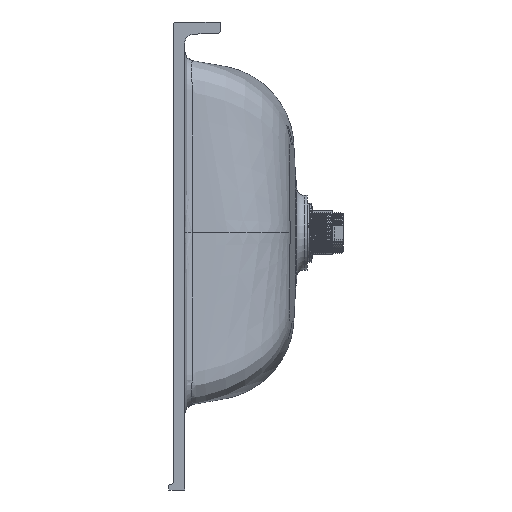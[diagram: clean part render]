
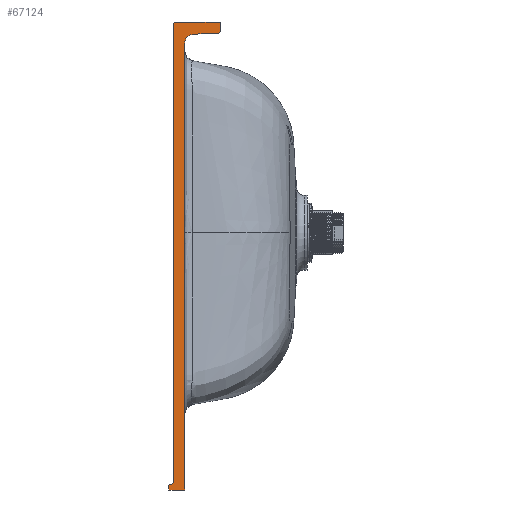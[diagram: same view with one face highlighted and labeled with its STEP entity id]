
A CAD part, left-side view. The second image highlights one B-rep face of the part: STEP entity #67124.
In plain terms, the highlighted planar face has unit normal (-1, 0, 0).
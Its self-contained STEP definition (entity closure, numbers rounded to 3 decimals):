
#1259 = LINE ( 'NONE', #41869, #61608 ) ;
#1967 = AXIS2_PLACEMENT_3D ( 'NONE', #84545, #38885, #53938 ) ;
#2598 = LINE ( 'NONE', #63823, #9620 ) ;
#3371 = CARTESIAN_POINT ( 'NONE',  ( -1250., -50., 225. ) ) ;
#4836 = FACE_OUTER_BOUND ( 'NONE', #76217, .T. ) ;
#6701 = LINE ( 'NONE', #37314, #86168 ) ;
#6891 = CARTESIAN_POINT ( 'NONE',  ( -1250., 0., -266. ) ) ;
#7274 = CARTESIAN_POINT ( 'NONE',  ( -1250., -47., 215.897 ) ) ;
#8614 = VECTOR ( 'NONE', #59129, 1000. ) ;
#8928 = VERTEX_POINT ( 'NONE', #60502 ) ;
#9620 = VECTOR ( 'NONE', #77892, 1000. ) ;
#10703 = EDGE_CURVE ( 'NONE', #84625, #27958, #98277, .T. ) ;
#13089 = EDGE_CURVE ( 'NONE', #48948, #78009, #1259, .T. ) ;
#13348 = DIRECTION ( 'NONE',  ( -1., 0., 0. ) ) ;
#13712 = AXIS2_PLACEMENT_3D ( 'NONE', #71444, #63426, #33301 ) ;
#13822 = DIRECTION ( 'NONE',  ( -1., 0., 0. ) ) ;
#13997 = CARTESIAN_POINT ( 'NONE',  ( -1250., -22., 202.016 ) ) ;
#14470 = CARTESIAN_POINT ( 'NONE',  ( -1250., -12., -275. ) ) ;
#14974 = DIRECTION ( 'NONE',  ( 0., 0., 1. ) ) ;
#16395 = EDGE_CURVE ( 'NONE', #92098, #27958, #6701, .T. ) ;
#16565 = ORIENTED_EDGE ( 'NONE', *, *, #16395, .T. ) ;
#19963 = CARTESIAN_POINT ( 'NONE',  ( -1250., 3., -271. ) ) ;
#27575 = AXIS2_PLACEMENT_3D ( 'NONE', #19963, #50580, #41046 ) ;
#27958 = VERTEX_POINT ( 'NONE', #28022 ) ;
#28022 = CARTESIAN_POINT ( 'NONE',  ( -1250., 5., -275. ) ) ;
#28156 = EDGE_CURVE ( 'NONE', #86049, #63735, #60108, .T. ) ;
#29884 = LINE ( 'NONE', #75063, #56359 ) ;
#30028 = DIRECTION ( 'NONE',  ( 0., 0., 1. ) ) ;
#31246 = CARTESIAN_POINT ( 'NONE',  ( -1250., -12., 202.016 ) ) ;
#32225 = CARTESIAN_POINT ( 'NONE',  ( -1250., -50., 215.897 ) ) ;
#33301 = DIRECTION ( 'NONE',  ( 0., 0., 1. ) ) ;
#33343 = DIRECTION ( 'NONE',  ( 0., 0., 1. ) ) ;
#35031 = VERTEX_POINT ( 'NONE', #65274 ) ;
#35452 = CARTESIAN_POINT ( 'NONE',  ( -1250., -12., 225. ) ) ;
#36428 = PLANE ( 'NONE',  #67687 ) ;
#37314 = CARTESIAN_POINT ( 'NONE',  ( -1250., 5., -275. ) ) ;
#38885 = DIRECTION ( 'NONE',  ( -1., 0., 0. ) ) ;
#39473 = CARTESIAN_POINT ( 'NONE',  ( -1250., -21.651, 212.01 ) ) ;
#40243 = ORIENTED_EDGE ( 'NONE', *, *, #28156, .F. ) ;
#41046 = DIRECTION ( 'NONE',  ( 0., 0., 1. ) ) ;
#41869 = CARTESIAN_POINT ( 'NONE',  ( -1250., 0., 225. ) ) ;
#43558 = ORIENTED_EDGE ( 'NONE', *, *, #94480, .T. ) ;
#43660 = ORIENTED_EDGE ( 'NONE', *, *, #86288, .T. ) ;
#43960 = DIRECTION ( 'NONE',  ( 0., 0., 1. ) ) ;
#44836 = ORIENTED_EDGE ( 'NONE', *, *, #55476, .F. ) ;
#45261 = CIRCLE ( 'NONE', #1967, 2. ) ;
#46302 = CARTESIAN_POINT ( 'NONE',  ( -1250., 0., 223. ) ) ;
#48948 = VERTEX_POINT ( 'NONE', #6891 ) ;
#49583 = ORIENTED_EDGE ( 'NONE', *, *, #87023, .T. ) ;
#50580 = DIRECTION ( 'NONE',  ( -1., 0., 0. ) ) ;
#53429 = DIRECTION ( 'NONE',  ( 0., 0., 1. ) ) ;
#53938 = DIRECTION ( 'NONE',  ( 0., 0., 1. ) ) ;
#54922 = CARTESIAN_POINT ( 'NONE',  ( -1250., 5., -271. ) ) ;
#55476 = EDGE_CURVE ( 'NONE', #69900, #78170, #29884, .T. ) ;
#56359 = VECTOR ( 'NONE', #60503, 1000. ) ;
#58635 = CARTESIAN_POINT ( 'NONE',  ( -1250., -50., 213. ) ) ;
#59129 = DIRECTION ( 'NONE',  ( 0., 0.999, -0.035 ) ) ;
#60108 = LINE ( 'NONE', #58635, #8614 ) ;
#60502 = CARTESIAN_POINT ( 'NONE',  ( -1250., 3., -269. ) ) ;
#60503 = DIRECTION ( 'NONE',  ( 0., 0., -1. ) ) ;
#61608 = VECTOR ( 'NONE', #33343, 1000. ) ;
#61621 = DIRECTION ( 'NONE',  ( 1., 0., 0. ) ) ;
#63426 = DIRECTION ( 'NONE',  ( 1., 0., 0. ) ) ;
#63735 = VERTEX_POINT ( 'NONE', #39473 ) ;
#63823 = CARTESIAN_POINT ( 'NONE',  ( -1250., -12., 225. ) ) ;
#64529 = CARTESIAN_POINT ( 'NONE',  ( -1250., -12., -275. ) ) ;
#64712 = ORIENTED_EDGE ( 'NONE', *, *, #13089, .F. ) ;
#65274 = CARTESIAN_POINT ( 'NONE',  ( -1250., -2., 225. ) ) ;
#67124 = ADVANCED_FACE ( 'NONE', ( #4836 ), #36428, .T. ) ;
#67687 = AXIS2_PLACEMENT_3D ( 'NONE', #35452, #13348, #43960 ) ;
#67696 = CARTESIAN_POINT ( 'NONE',  ( -1250., -12., 225. ) ) ;
#67759 = EDGE_CURVE ( 'NONE', #35031, #78009, #45261, .T. ) ;
#69248 = CIRCLE ( 'NONE', #27575, 2. ) ;
#69675 = ORIENTED_EDGE ( 'NONE', *, *, #95464, .T. ) ;
#69900 = VERTEX_POINT ( 'NONE', #3371 ) ;
#71444 = CARTESIAN_POINT ( 'NONE',  ( -1250., 3., -266. ) ) ;
#72091 = CIRCLE ( 'NONE', #75338, 10. ) ;
#73679 = EDGE_CURVE ( 'NONE', #8928, #92098, #69248, .T. ) ;
#75063 = CARTESIAN_POINT ( 'NONE',  ( -1250., -50., 225. ) ) ;
#75065 = ORIENTED_EDGE ( 'NONE', *, *, #10703, .F. ) ;
#75217 = LINE ( 'NONE', #67696, #76973 ) ;
#75338 = AXIS2_PLACEMENT_3D ( 'NONE', #13997, #61621, #30028 ) ;
#76217 = EDGE_LOOP ( 'NONE', ( #49583, #95567, #16565, #75065, #80775, #69675, #40243, #43660, #44836, #43558, #83251, #64712 ) ) ;
#76973 = VECTOR ( 'NONE', #14974, 1000. ) ;
#77892 = DIRECTION ( 'NONE',  ( 0., 1., 0. ) ) ;
#78009 = VERTEX_POINT ( 'NONE', #46302 ) ;
#78170 = VERTEX_POINT ( 'NONE', #32225 ) ;
#80775 = ORIENTED_EDGE ( 'NONE', *, *, #97989, .T. ) ;
#83251 = ORIENTED_EDGE ( 'NONE', *, *, #67759, .T. ) ;
#84545 = CARTESIAN_POINT ( 'NONE',  ( -1250., -2., 223. ) ) ;
#84625 = VERTEX_POINT ( 'NONE', #64529 ) ;
#86049 = VERTEX_POINT ( 'NONE', #98108 ) ;
#86168 = VECTOR ( 'NONE', #98033, 1000. ) ;
#86288 = EDGE_CURVE ( 'NONE', #86049, #78170, #87400, .T. ) ;
#87023 = EDGE_CURVE ( 'NONE', #48948, #8928, #97022, .T. ) ;
#87400 = CIRCLE ( 'NONE', #90639, 3. ) ;
#87691 = VECTOR ( 'NONE', #97785, 1000. ) ;
#90639 = AXIS2_PLACEMENT_3D ( 'NONE', #7274, #13822, #53429 ) ;
#92098 = VERTEX_POINT ( 'NONE', #54922 ) ;
#93955 = VERTEX_POINT ( 'NONE', #31246 ) ;
#94480 = EDGE_CURVE ( 'NONE', #69900, #35031, #2598, .T. ) ;
#95464 = EDGE_CURVE ( 'NONE', #93955, #63735, #72091, .T. ) ;
#95567 = ORIENTED_EDGE ( 'NONE', *, *, #73679, .T. ) ;
#97022 = CIRCLE ( 'NONE', #13712, 3. ) ;
#97785 = DIRECTION ( 'NONE',  ( 0., 1., 0. ) ) ;
#97989 = EDGE_CURVE ( 'NONE', #84625, #93955, #75217, .T. ) ;
#98033 = DIRECTION ( 'NONE',  ( 0., 0., -1. ) ) ;
#98108 = CARTESIAN_POINT ( 'NONE',  ( -1250., -47.105, 212.899 ) ) ;
#98277 = LINE ( 'NONE', #14470, #87691 ) ;
